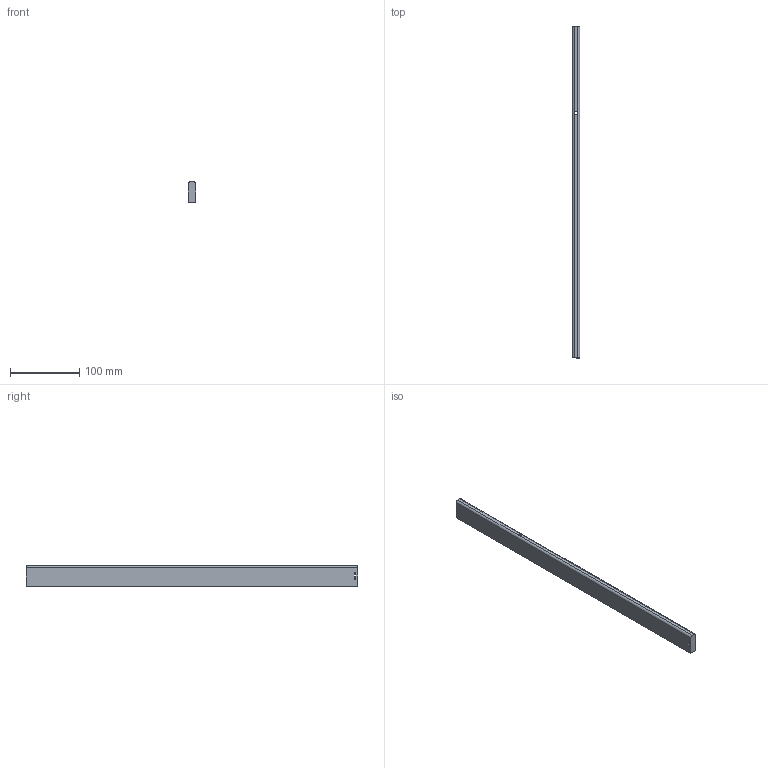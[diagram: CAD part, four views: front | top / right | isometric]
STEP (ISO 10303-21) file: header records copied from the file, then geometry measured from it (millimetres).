
FILE_DESCRIPTION (( 'STEP AP214' ), '1' );
FILE_NAME ('_Seitenreling_S760609500_RL479,5.step', '2010-09-06T14:51:35', ( 'grass' ), ( '' ), 'SwSTEP 2.0', 'SolidWorks 2010', '' );
FILE_SCHEMA (( 'AUTOMOTIVE_DESIGN' ));
Length unit declared in the file: millimetre
Products named in the file (1): _Seitenreling_S760609500_RL479,5
Bounding box: 10.5 x 479.5 x 30 mm (x, y, z)
Volume: 147804.2 mm3; surface area: 39080.2 mm2
Topology: 1 solids, 1 shells, 23 faces, 56 edges, 36 vertices
Faces by surface type: plane 15, cylinder 8
Entity records: 716 total; most frequent: DIRECTION 120, CARTESIAN_POINT 116, ORIENTED_EDGE 112, EDGE_CURVE 56, LINE 40, VECTOR 40, AXIS2_PLACEMENT_3D 40, VERTEX_POINT 36
